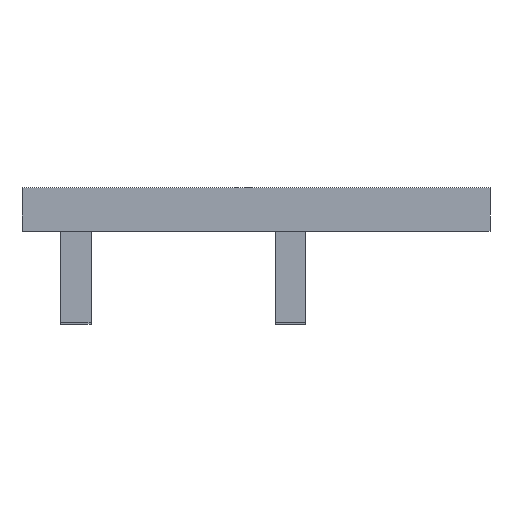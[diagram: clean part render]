
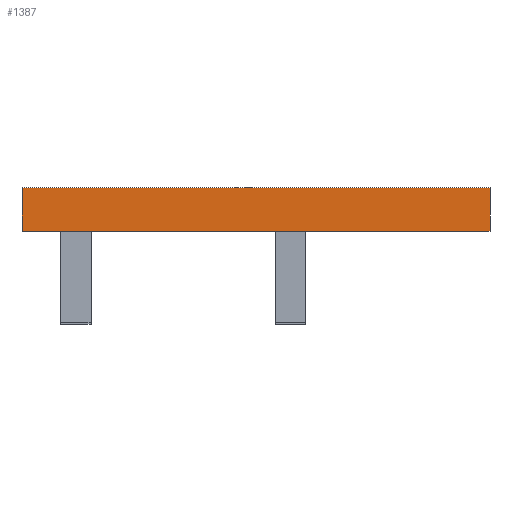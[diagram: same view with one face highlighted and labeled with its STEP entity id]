
A CAD part, left-side view. The second image highlights one B-rep face of the part: STEP entity #1387.
In plain terms, the highlighted planar face has unit normal (-1, 0, 0).
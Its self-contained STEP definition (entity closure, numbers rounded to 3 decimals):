
#125=DIRECTION('',(0.,0.,1.));
#126=VECTOR('',#125,57.);
#127=CARTESIAN_POINT('',(-275.,0.,-28.5));
#128=LINE('',#127,#126);
#477=DIRECTION('',(0.,0.,1.));
#478=VECTOR('',#477,57.);
#479=CARTESIAN_POINT('',(-275.,610.,-28.5));
#480=LINE('',#479,#478);
#505=DIRECTION('',(0.,1.,0.));
#506=VECTOR('',#505,610.);
#507=CARTESIAN_POINT('',(-275.,0.,28.5));
#508=LINE('',#507,#506);
#509=DIRECTION('',(0.,1.,0.));
#510=VECTOR('',#509,610.);
#511=CARTESIAN_POINT('',(-275.,0.,-28.5));
#512=LINE('',#511,#510);
#737=CARTESIAN_POINT('',(-275.,0.,28.5));
#739=VERTEX_POINT('',#737);
#742=CARTESIAN_POINT('',(-275.,0.,-28.5));
#744=VERTEX_POINT('',#742);
#753=CARTESIAN_POINT('',(-275.,610.,28.5));
#755=VERTEX_POINT('',#753);
#759=CARTESIAN_POINT('',(-275.,610.,-28.5));
#760=VERTEX_POINT('',#759);
#1376=CARTESIAN_POINT('',(-275.,0.,-28.5));
#1377=DIRECTION('',(-1.,0.,0.));
#1378=DIRECTION('',(0.,0.,1.));
#1379=AXIS2_PLACEMENT_3D('',#1376,#1377,#1378);
#1380=PLANE('',#1379);
#1381=ORIENTED_EDGE('',*,*,#950,.F.);
#1382=ORIENTED_EDGE('',*,*,#1325,.T.);
#1383=ORIENTED_EDGE('',*,*,#1341,.T.);
#1384=ORIENTED_EDGE('',*,*,#1369,.F.);
#1385=EDGE_LOOP('',(#1381,#1382,#1383,#1384));
#1386=FACE_OUTER_BOUND('',#1385,.F.);
#950=EDGE_CURVE('',#744,#739,#128,.T.);
#1325=EDGE_CURVE('',#744,#760,#512,.T.);
#1341=EDGE_CURVE('',#760,#755,#480,.T.);
#1369=EDGE_CURVE('',#739,#755,#508,.T.);
#1387=ADVANCED_FACE('',(#1386),#1380,.T.);
